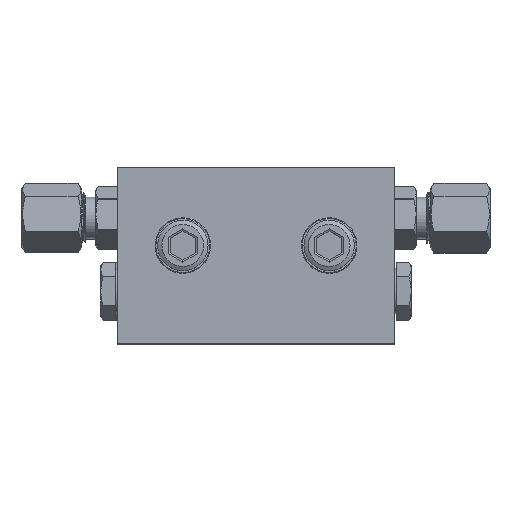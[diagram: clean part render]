
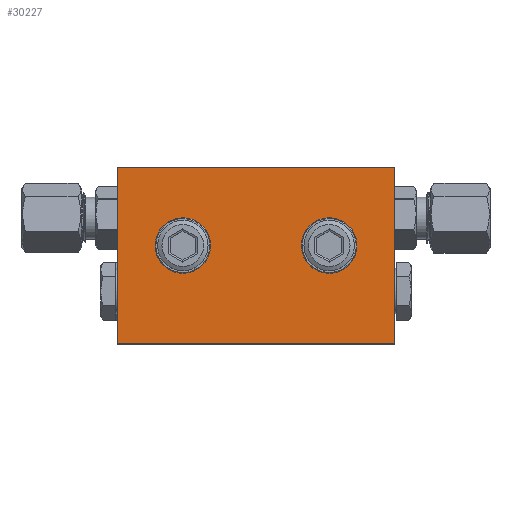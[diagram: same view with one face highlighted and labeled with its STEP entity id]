
A CAD part, top view. The second image highlights one B-rep face of the part: STEP entity #30227.
In plain terms, the highlighted planar face has unit normal (0, 0, 1) as drawn and (0, 0, -1) by its records, which use the part's own axes.
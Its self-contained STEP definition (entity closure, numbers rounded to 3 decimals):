
#574 = FACE_OUTER_BOUND ( 'NONE', #12747, .T. ) ;
#676 = LINE ( 'NONE', #1130, #16072 ) ;
#798 = DIRECTION ( 'NONE',  ( -1., 0., 0. ) ) ;
#1031 = AXIS2_PLACEMENT_3D ( 'NONE', #40916, #7977, #21157 ) ;
#1130 = CARTESIAN_POINT ( 'NONE',  ( -27.5, 0., -4.85 ) ) ;
#1309 = VERTEX_POINT ( 'NONE', #19885 ) ;
#2275 = DIRECTION ( 'NONE',  ( 0., 1., 0. ) ) ;
#2328 = ORIENTED_EDGE ( 'NONE', *, *, #29365, .F. ) ;
#2909 = LINE ( 'NONE', #25918, #17674 ) ;
#5102 = CARTESIAN_POINT ( 'NONE',  ( -27.5, 0., -4.85 ) ) ;
#5593 = CARTESIAN_POINT ( 'NONE',  ( -27.5, -35., -4.85 ) ) ;
#7977 = DIRECTION ( 'NONE',  ( 0., 0., -1. ) ) ;
#9286 = EDGE_LOOP ( 'NONE', ( #38454 ) ) ;
#9351 = CIRCLE ( 'NONE', #1031, 3.1 ) ;
#9590 = LINE ( 'NONE', #16923, #18483 ) ;
#10105 = AXIS2_PLACEMENT_3D ( 'NONE', #28399, #34684, #41800 ) ;
#10397 = EDGE_CURVE ( 'NONE', #30495, #30495, #34321, .T. ) ;
#12423 = ORIENTED_EDGE ( 'NONE', *, *, #17087, .F. ) ;
#12747 = EDGE_LOOP ( 'NONE', ( #23228, #22463, #34337, #12423 ) ) ;
#13824 = PLANE ( 'NONE',  #10105 ) ;
#13976 = EDGE_CURVE ( 'NONE', #1309, #40829, #9590, .T. ) ;
#14822 = VERTEX_POINT ( 'NONE', #5593 ) ;
#16072 = VECTOR ( 'NONE', #37574, 1000. ) ;
#16665 = EDGE_LOOP ( 'NONE', ( #2328 ) ) ;
#16923 = CARTESIAN_POINT ( 'NONE',  ( 0., 0., -4.85 ) ) ;
#17087 = EDGE_CURVE ( 'NONE', #33306, #1309, #2909, .T. ) ;
#17504 = CARTESIAN_POINT ( 'NONE',  ( 0., -35., -4.85 ) ) ;
#17674 = VECTOR ( 'NONE', #2275, 1000. ) ;
#18483 = VECTOR ( 'NONE', #33681, 1000. ) ;
#19885 = CARTESIAN_POINT ( 'NONE',  ( 27.5, 0., -4.85 ) ) ;
#21157 = DIRECTION ( 'NONE',  ( 1., 0., 0. ) ) ;
#22463 = ORIENTED_EDGE ( 'NONE', *, *, #39914, .F. ) ;
#23228 = ORIENTED_EDGE ( 'NONE', *, *, #25006, .F. ) ;
#25006 = EDGE_CURVE ( 'NONE', #14822, #33306, #34724, .T. ) ;
#25918 = CARTESIAN_POINT ( 'NONE',  ( 27.5, 0., -4.85 ) ) ;
#27137 = DIRECTION ( 'NONE',  ( 1., 0., 0. ) ) ;
#27556 = CARTESIAN_POINT ( 'NONE',  ( -11.4, -15.5, -4.85 ) ) ;
#27752 = FACE_BOUND ( 'NONE', #9286, .T. ) ;
#27973 = FACE_BOUND ( 'NONE', #16665, .T. ) ;
#28399 = CARTESIAN_POINT ( 'NONE',  ( 0., 0., -4.85 ) ) ;
#29365 = EDGE_CURVE ( 'NONE', #40530, #40530, #9351, .T. ) ;
#30042 = CARTESIAN_POINT ( 'NONE',  ( 27.5, -35., -4.85 ) ) ;
#30203 = AXIS2_PLACEMENT_3D ( 'NONE', #33387, #30406, #798 ) ;
#30227 = ADVANCED_FACE ( 'NONE', ( #27973, #27752, #574 ), #13824, .F. ) ;
#30406 = DIRECTION ( 'NONE',  ( 0., 0., -1. ) ) ;
#30495 = VERTEX_POINT ( 'NONE', #33718 ) ;
#32327 = VECTOR ( 'NONE', #27137, 1000. ) ;
#33306 = VERTEX_POINT ( 'NONE', #30042 ) ;
#33387 = CARTESIAN_POINT ( 'NONE',  ( 14.5, -15.5, -4.85 ) ) ;
#33681 = DIRECTION ( 'NONE',  ( -1., 0., 0. ) ) ;
#33718 = CARTESIAN_POINT ( 'NONE',  ( 11.4, -15.5, -4.85 ) ) ;
#34321 = CIRCLE ( 'NONE', #30203, 3.1 ) ;
#34337 = ORIENTED_EDGE ( 'NONE', *, *, #13976, .F. ) ;
#34684 = DIRECTION ( 'NONE',  ( 0., 0., 1. ) ) ;
#34724 = LINE ( 'NONE', #17504, #32327 ) ;
#37574 = DIRECTION ( 'NONE',  ( 0., -1., 0. ) ) ;
#38454 = ORIENTED_EDGE ( 'NONE', *, *, #10397, .F. ) ;
#39914 = EDGE_CURVE ( 'NONE', #40829, #14822, #676, .T. ) ;
#40530 = VERTEX_POINT ( 'NONE', #27556 ) ;
#40829 = VERTEX_POINT ( 'NONE', #5102 ) ;
#40916 = CARTESIAN_POINT ( 'NONE',  ( -14.5, -15.5, -4.85 ) ) ;
#41800 = DIRECTION ( 'NONE',  ( 1., 0., 0. ) ) ;
